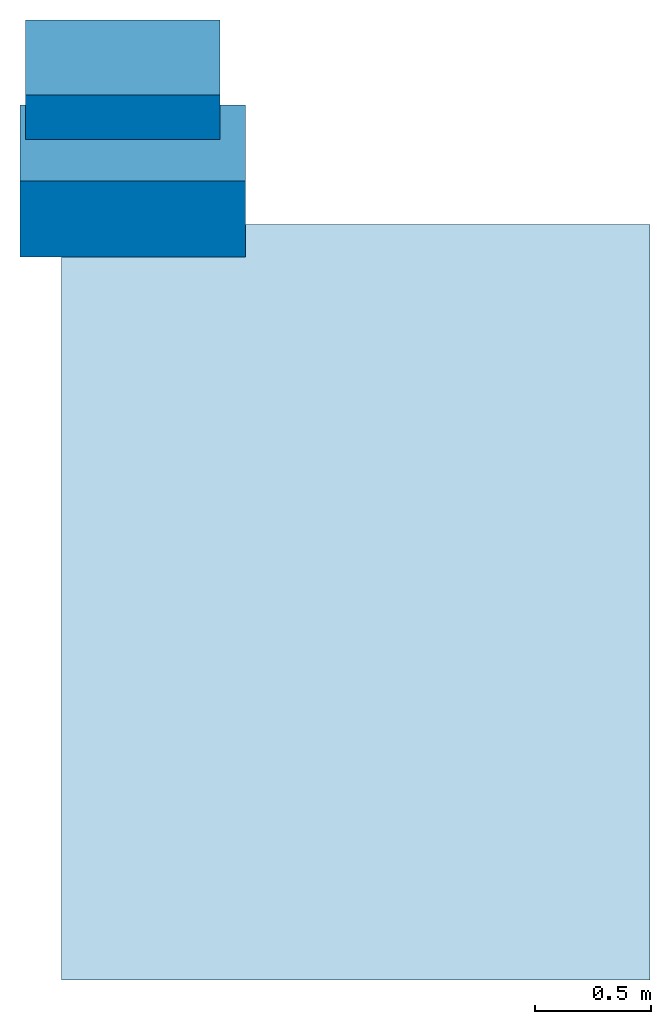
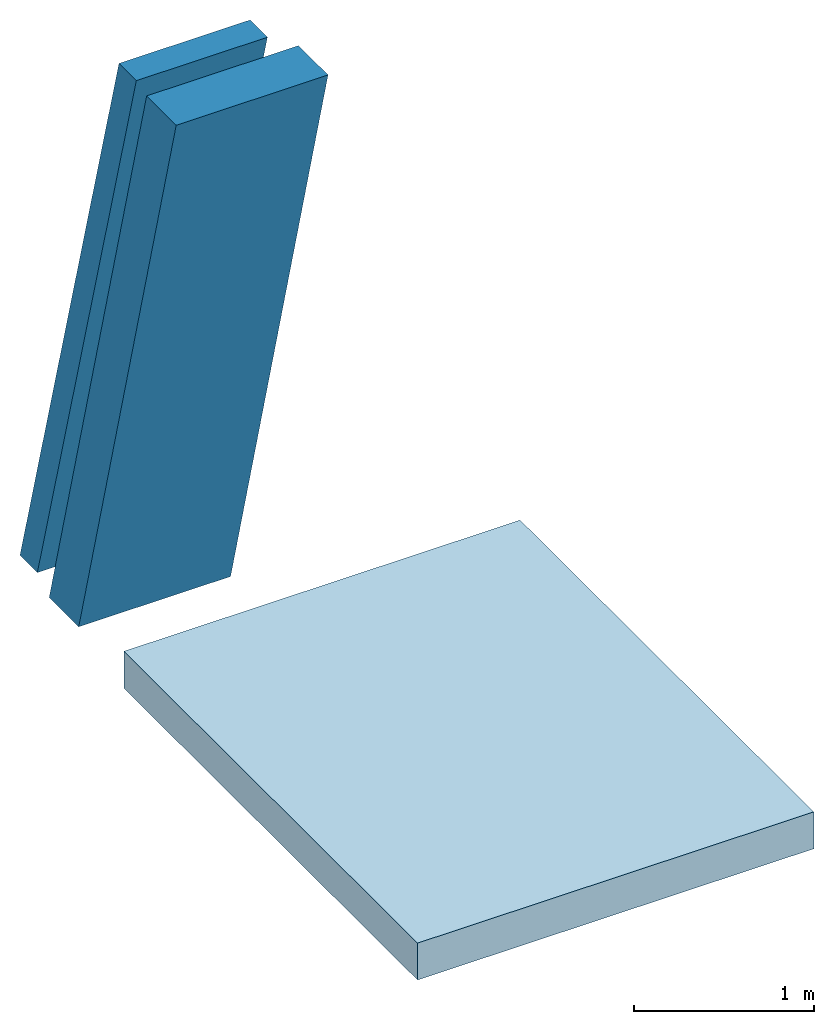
# One storey: 2 walls, 1 slab, 1 element without a shape of its own.
"""IFC2X3 building model written with IfcOpenShell, lengths in millimetres."""

from ifc_helpers import new_model, entity, si_unit, converted_unit, derived_unit, direction, frame, origin, origin_with_axes, place, context, subcontext, project, spatial, faceted_brep, material, layer, layer_set, type_object, element, aggregate, save


model = new_model("IFC2X3")

# Units and contexts
model_context = context("Model", 3, precision=0.01, world=origin(), true_north=direction((6.12303176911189e-17, 1.0)))
plan_context = context("Plan", 3, precision=1e-05, world=origin_with_axes())
body_context = subcontext(model_context, "Body", "Model", "MODEL_VIEW")
ifc_project = project(units=[converted_unit("PLANEANGLEUNIT", "DEGREE", entity("IfcPositiveLengthMeasure", 0.0174532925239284), si_unit("PLANEANGLEUNIT", "RADIAN"), dimensions=[0, 0, 0, 0, 0, 0, 0]), si_unit("AREAUNIT", "SQUARE_METRE"), si_unit("LENGTHUNIT", "METRE", prefix="MILLI"), si_unit("MASSUNIT", "GRAM", prefix="KILO"), si_unit("POWERUNIT", "WATT"), si_unit("PRESSUREUNIT", "PASCAL"), si_unit("FORCEUNIT", "NEWTON", prefix="KILO"), si_unit("ELECTRICVOLTAGEUNIT", "VOLT"), si_unit("ELECTRICCURRENTUNIT", "AMPERE"), si_unit("THERMODYNAMICTEMPERATUREUNIT", "DEGREE_CELSIUS"), si_unit("TIMEUNIT", "SECOND"), si_unit("VOLUMEUNIT", "CUBIC_METRE"), derived_unit("LINEARVELOCITYUNIT", [(si_unit("LENGTHUNIT", "METRE"), 1), (si_unit("TIMEUNIT", "SECOND"), -1)]), derived_unit("VOLUMETRICFLOWRATEUNIT", [(si_unit("VOLUMEUNIT", "CUBIC_METRE"), 1), (si_unit("TIMEUNIT", "SECOND"), -1)]), derived_unit("THERMALTRANSMITTANCEUNIT", [(si_unit("POWERUNIT", "WATT"), 1), (si_unit("THERMODYNAMICTEMPERATUREUNIT", "KELVIN"), -1), (si_unit("AREAUNIT", "SQUARE_METRE"), -1)]), derived_unit("SOUNDPRESSUREUNIT", [(si_unit("PRESSUREUNIT", "PASCAL"), 1)])], contexts=[model_context, plan_context])

# Site, building, storey
site_placement = place(None, frame((2314154.5009392, 1029894.10887124, 0.0), z_axis=(0.0, 0.0, 1.0), x_axis=(1.0, 0.0, 0.0)))
site = spatial("IfcSite", under=ifc_project, at=site_placement, Name="Default", CompositionType="ELEMENT")
building_placement = place(site_placement, origin_with_axes())
building = spatial("IfcBuilding", under=site, at=building_placement, CompositionType="ELEMENT")
storey_placement = place(building_placement, frame((0.0, 0.0, 10750.0), z_axis=(0.0, 0.0, 1.0), x_axis=(1.0, 0.0, 0.0)))
storey = spatial("IfcBuildingStorey", under=building, at=storey_placement, Name="XX - C +10,75 TA E1", CompositionType="ELEMENT", Elevation=10750.0)

# Slabs
slab_1_placement = place(storey_placement, frame((37064.3339473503, -47035.5762755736, -1850.0), z_axis=(0.0, 0.0, 1.0), x_axis=(1.0, 0.0, 0.0)))
slab_1 = element("IfcSlab", 1, at=slab_1_placement, inside=storey, Name="Floor:Værnes_Betong Floor 250-External", ObjectType="Floor:Værnes_Betong Floor 250-External", PredefinedType="NOTDEFINED")
slab_type = type_object("IfcSlabType", Name="Floor:Værnes_Betong Floor 250-External", PredefinedType="NOTDEFINED")
slab_2_placement = place(slab_1_placement, origin_with_axes())
slab_2 = element("IfcSlab", 2, at=slab_2_placement, type_object=slab_type, Name="Floor:Værnes_Betong Floor 250-External", ObjectType="Floor:Værnes_Betong Floor 250-External", PredefinedType="NOTDEFINED", context=body_context, shape_type="Brep", body=[
    faceted_brep([(66117.9516479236, 4700.18524568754, 250.0), (66117.9516479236, 4700.18524568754, -5.6843418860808e-13), (66117.9516479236, 7961.0997133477, -5.6843418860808e-13), (66117.9516479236, 7961.0997133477, 250.0), (68657.7516479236, 7961.09971334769, -5.6843418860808e-13), (68657.7516479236, 7961.09971334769, 250.0), (68657.7516479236, 4700.18524568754, -5.6843418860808e-13), (68657.7516479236, 4700.18524568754, 250.0)], [[[0, 1, 2, 3]], [[3, 2, 4, 5]], [[6, 7, 5, 4]], [[7, 0, 3, 5]], [[1, 6, 4, 2]], [[7, 6, 1, 0]]], orient=[[False], [False], [False], [False], [False], [False]]),
])
aggregate(slab_1, [slab_2])

# Walls
ifc_material_1 = material(Name="Værnes_Flis 05")
ifc_layer_1 = layer(ifc_material_1, 10.0)
ifc_material_2 = material(Name="Værnes_Gipsplate")
ifc_layer_2 = layer(ifc_material_2, 13.0)
ifc_layer_3 = layer(ifc_material_2, 13.0)
ifc_material_3 = material(Name="Værnes_Stålstender")
ifc_layer_4 = layer(ifc_material_3, 150.0)
ifc_layer_set_1 = layer_set([ifc_layer_1, ifc_layer_2, ifc_layer_3, ifc_layer_4], Name="Basic Wall:242_Værnes Innervegg 77_150mm")
wall_type_1 = type_object("IfcWallType", Name="Basic Wall:242_Værnes Innervegg 77_150mm", PredefinedType="NOTDEFINED", material=ifc_layer_set_1)
wall_1_placement = place(storey_placement, frame((103026.351920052, -41074.222317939, -1430.0), z_axis=(0.0, 0.0, 1.0), x_axis=(0.0, 1.0, 0.0)))
element("IfcWall", 3, at=wall_1_placement, inside=storey, type_object=wall_type_1, Name="Basic Wall:242_Værnes Innervegg 77_150mm", ObjectType="Basic Wall:242_Værnes Innervegg 77_150mm", context=body_context, shape_type="Brep", body=[
    faceted_brep([(1590.78765530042, 0.0, 4000.0), (1590.78765530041, -839.982026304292, 4000.0), (2689.74411776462, -839.982026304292, 0.0), (2689.74411776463, 0.0, 0.0), (1783.67975155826, -839.982026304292, 4000.0), (1783.67975155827, 0.0, 4000.0), (2882.63621402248, 0.0, 0.0), (2882.63621402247, -839.982026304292, 0.0)], [[[0, 1, 2, 3]], [[4, 5, 6, 7]], [[1, 4, 7, 2]], [[3, 2, 7, 6]], [[5, 0, 3, 6]], [[5, 4, 1, 0]]], orient=[[False], [False], [False], [False], [False], [False]]),
])
ifc_material_4 = material(Name="Værnes_Metalpanel")
ifc_layer_5 = layer(ifc_material_4, 25.0)
ifc_material_5 = material(Name="Værnes_Luftspalte")
ifc_layer_6 = layer(ifc_material_5, 20.0)
ifc_material_6 = material(Name="Værnes_Vindsperre")
ifc_layer_7 = layer(ifc_material_6, 22.0)
ifc_material_7 = material(Name="Værnes_Isolasjon-Mineralull")
ifc_layer_8 = layer(ifc_material_7, 50.0)
ifc_material_8 = material(Name="Værnes_Stender isolert")
ifc_layer_9 = layer(ifc_material_8, 200.0)
ifc_layer_set_2 = layer_set([ifc_layer_5, ifc_layer_6, ifc_layer_7, ifc_layer_8, ifc_layer_9], Name="Basic Wall:232_Værnes Yttervegg 08_200mm Ekspedisjons vegg")
wall_type_2 = type_object("IfcWallType", Name="Basic Wall:232_Værnes Yttervegg 08_200mm Ekspedisjons vegg", PredefinedType="NOTDEFINED", material=ifc_layer_set_2)
wall_2_placement = place(storey_placement, frame((103002.085595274, -41504.3823095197, -1485.0), z_axis=(0.0, 0.0, 1.0), x_axis=(0.0, 1.0, 0.0)))
element("IfcWall", 4, at=wall_2_placement, inside=storey, type_object=wall_type_2, Name="Basic Wall:232_Værnes Yttervegg 08_200mm Ekspedisjons vegg", ObjectType="Basic Wall:232_Værnes Yttervegg 08_200mm Ekspedisjons vegg", context=body_context, shape_type="Brep", body=[
    faceted_brep([(1864.51381720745, -973.248351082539, 4055.0), (1864.51381720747, 0.0, 4055.0), (2946.58653590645, 0.0, 0.0), (2946.58653590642, -973.248351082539, 0.0), (1536.42136058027, 0.0, 4055.0), (1536.42136058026, -973.248351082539, 4055.0), (2618.49407927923, -973.248351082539, 0.0), (2618.49407927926, 0.0, 0.0)], [[[0, 1, 2, 3]], [[4, 5, 6, 7]], [[5, 0, 3, 6]], [[1, 4, 7, 2]], [[3, 2, 7, 6]], [[5, 4, 1, 0]]], orient=[[False], [False], [False], [False], [False], [False]]),
])

save(model, "model.ifc")
